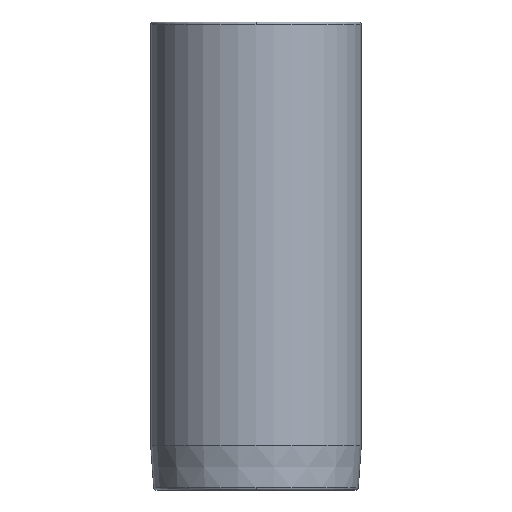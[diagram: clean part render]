
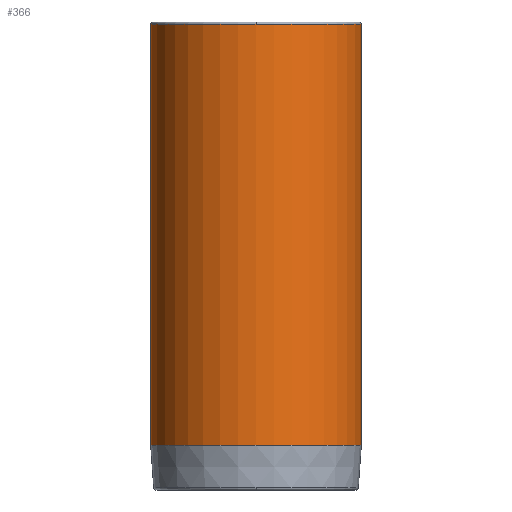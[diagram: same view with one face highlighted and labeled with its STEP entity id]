
A CAD part, front view. The second image highlights one B-rep face of the part: STEP entity #366.
In plain terms, the highlighted cylindrical face has radius 23.625 mm (diameter 47.25 mm), a partial arc.
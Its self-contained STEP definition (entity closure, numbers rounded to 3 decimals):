
#271=CARTESIAN_POINT('',(0.0,-23.625,53.5));
#272=VERTEX_POINT('',#271);
#298=CARTESIAN_POINT('',(-23.625,0.,53.5));
#299=VERTEX_POINT('',#298);
#307=CARTESIAN_POINT('',(0.0,0.,53.5));
#308=DIRECTION('',(0.0,0.0,1.0));
#309=DIRECTION('',(1.0,0.0,0.0));
#310=AXIS2_PLACEMENT_3D('',#307,#308,#309);
#311=CIRCLE('',#310,23.625);
#312=EDGE_CURVE('',#299,#272,#311,.T.);
#317=CARTESIAN_POINT('',(0.0,0.,6.267));
#318=DIRECTION('',(0.0,0.,1.0));
#319=DIRECTION('',(1.0,0.0,0.0));
#320=AXIS2_PLACEMENT_3D('',#317,#318,#319);
#321=CYLINDRICAL_SURFACE('',#320,23.625);
#322=CARTESIAN_POINT('',(23.625,0.,53.5));
#323=VERTEX_POINT('',#322);
#324=CARTESIAN_POINT('',(23.625,0.,-40.965));
#325=VERTEX_POINT('',#324);
#326=CARTESIAN_POINT('',(23.625,0.,53.5));
#327=DIRECTION('',(0.0,0.0,-1.0));
#328=VECTOR('',#327,94.465);
#329=LINE('',#326,#328);
#330=EDGE_CURVE('',#323,#325,#329,.T.);
#331=ORIENTED_EDGE('',*,*,#330,.F.);
#332=CARTESIAN_POINT('',(0.0,0.,53.5));
#333=DIRECTION('',(0.0,0.0,1.0));
#334=DIRECTION('',(1.0,0.0,0.0));
#335=AXIS2_PLACEMENT_3D('',#332,#333,#334);
#336=CIRCLE('',#335,23.625);
#337=EDGE_CURVE('',#272,#323,#336,.T.);
#338=ORIENTED_EDGE('',*,*,#337,.F.);
#339=ORIENTED_EDGE('',*,*,#312,.F.);
#340=CARTESIAN_POINT('',(-23.625,0.,-40.965));
#341=VERTEX_POINT('',#340);
#342=CARTESIAN_POINT('',(-23.625,0.,53.5));
#343=DIRECTION('',(0.0,0.0,-1.0));
#344=VECTOR('',#343,94.465);
#345=LINE('',#342,#344);
#346=EDGE_CURVE('',#299,#341,#345,.T.);
#347=ORIENTED_EDGE('',*,*,#346,.T.);
#348=CARTESIAN_POINT('',(0.0,-23.625,-40.965));
#349=VERTEX_POINT('',#348);
#350=CARTESIAN_POINT('',(0.0,0.,-40.965));
#351=DIRECTION('',(0.0,0.0,1.0));
#352=DIRECTION('',(1.0,0.0,0.0));
#353=AXIS2_PLACEMENT_3D('',#350,#351,#352);
#354=CIRCLE('',#353,23.625);
#355=EDGE_CURVE('',#341,#349,#354,.T.);
#356=ORIENTED_EDGE('',*,*,#355,.T.);
#357=CARTESIAN_POINT('',(0.0,0.,-40.965));
#358=DIRECTION('',(0.0,0.0,1.0));
#359=DIRECTION('',(1.0,0.0,0.0));
#360=AXIS2_PLACEMENT_3D('',#357,#358,#359);
#361=CIRCLE('',#360,23.625);
#362=EDGE_CURVE('',#349,#325,#361,.T.);
#363=ORIENTED_EDGE('',*,*,#362,.T.);
#364=EDGE_LOOP('',(#331,#338,#339,#347,#356,#363));
#365=FACE_OUTER_BOUND('',#364,.T.);
#366=ADVANCED_FACE('',(#365),#321,.T.);
